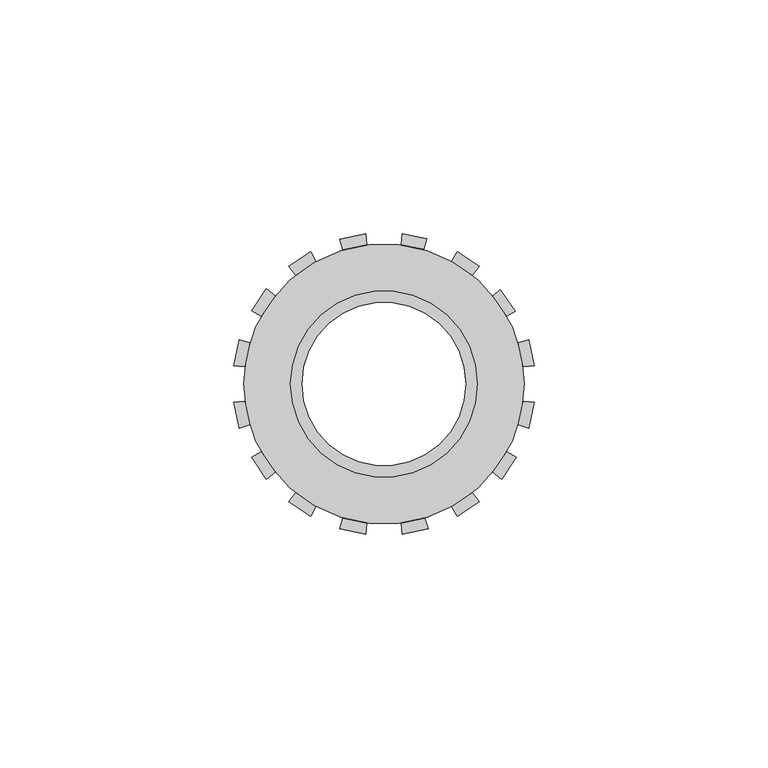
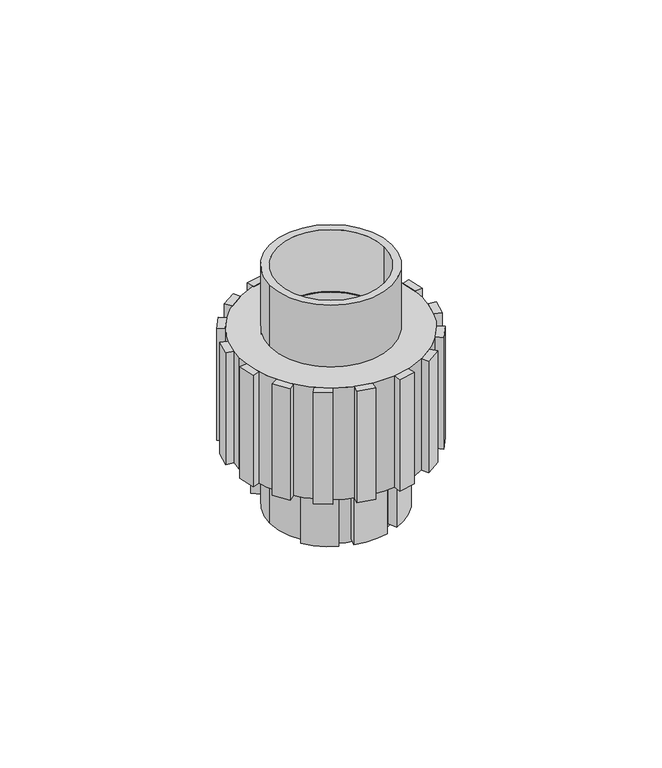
"""IFC4 building model written with IfcOpenShell, lengths in millimetres: valve geometry, Tuerca Union_Lubrizol_CPVC_FlowGuard_MX 32mm : Tuerca Union_Lubrizol_CPVC_FlowGuard_MX 32mm."""

from ifc_helpers import new_model, si_unit, point, frame, frame_2d, origin, origin_with_axes, origin_2d, place, context, project, spatial, polyline, circle_curve, trimmed, segment, composite_curve, outline, extrude, source, transform, mapped, element, save


def valve_72915398(model_context):
    return source(origin(), model_context, "Body", "SweptSolid", [
        extrude(outline(composite_curve([segment(polyline([(-4.6555045, 19.4506113), (-5.4460392, 22.4009269)]), True, "CONTINUOUS"), segment(trimmed(circle_curve(origin_2d(), 23.0534351), [point((-5.4460392, 22.4009269))], [point((5.4460392, 22.4009269))], False, "CARTESIAN"), True, "CONTINUOUS"), segment(polyline([(5.4460392, 22.4009269), (4.6555045, 19.4506113)]), True, "CONTINUOUS"), segment(trimmed(circle_curve(origin_2d(), 20.0), [point((4.6555045, 19.4506113))], [point((-4.6555045, 19.4506113))], True, "CARTESIAN"), True, "CONTINUOUS")], self_intersect=False)), frame((0.0, 0.0, 1.0184482), z_axis=(0.0, 0.0, 1.0), x_axis=(1.0, 0.0, 0.0)), (0.0, 0.0, 1.0), 21.1758273),
        extrude(outline(composite_curve([segment(trimmed(circle_curve(origin_2d(), 20.0), [point((-8.3064044, 18.1935056))], [point((-15.6435796, 12.4610761))], True, "CARTESIAN"), True, "CONTINUOUS"), segment(polyline([(-15.6435796, 12.4610761), (-18.0829252, 14.2992548)]), True, "CONTINUOUS"), segment(trimmed(circle_curve(origin_2d(), 23.0534351), [point((-18.0829252, 14.2992548))], [point((-9.4998503, 21.0050878))], False, "CARTESIAN"), True, "CONTINUOUS"), segment(polyline([(-9.4998503, 21.0050878), (-8.3064044, 18.1935056)]), True, "CONTINUOUS")], self_intersect=False)), frame((0.0, 0.0, 1.0184482), z_axis=(0.0, 0.0, 1.0), x_axis=(1.0, 0.0, 0.0)), (0.0, 0.0, 1.0), 21.1758273),
        extrude(outline(composite_curve([segment(polyline([(8.3064044, 18.1935056), (9.4998503, 21.0050878)]), True, "CONTINUOUS"), segment(trimmed(circle_curve(origin_2d(), 23.0534351), [point((9.4998503, 21.0050878))], [point((18.0829252, 14.2992548))], False, "CARTESIAN"), True, "CONTINUOUS"), segment(polyline([(18.0829252, 14.2992548), (15.6435796, 12.4610761)]), True, "CONTINUOUS"), segment(trimmed(circle_curve(origin_2d(), 20.0), [point((15.6435796, 12.4610761))], [point((8.3064044, 18.1935056))], True, "CARTESIAN"), True, "CONTINUOUS")], self_intersect=False)), frame((0.0, 0.0, 1.0184482), z_axis=(0.0, 0.0, 1.0), x_axis=(1.0, 0.0, 0.0)), (0.0, 0.0, 1.0), 21.1758273),
        extrude(outline(composite_curve([segment(trimmed(circle_curve(origin_2d(), 20.0), [point((-4.6555045, -19.4506113))], [point((4.6555045, -19.4506113))], True, "CARTESIAN"), True, "CONTINUOUS"), segment(polyline([(4.6555045, -19.4506113), (5.4460392, -22.4009269)]), True, "CONTINUOUS"), segment(trimmed(circle_curve(origin_2d(), 23.0534351), [point((5.4460392, -22.4009269))], [point((-5.4460392, -22.4009269))], False, "CARTESIAN"), True, "CONTINUOUS"), segment(polyline([(-5.4460392, -22.4009269), (-4.6555045, -19.4506113)]), True, "CONTINUOUS")], self_intersect=False)), frame((0.0, 0.0, 1.0184482), z_axis=(0.0, 0.0, 1.0), x_axis=(1.0, 0.0, 0.0)), (0.0, 0.0, 1.0), 21.1758273),
        extrude(outline(composite_curve([segment(polyline([(-8.3064044, -18.1935056), (-9.4998503, -21.0050878)]), True, "CONTINUOUS"), segment(trimmed(circle_curve(origin_2d(), 23.0534351), [point((-9.4998503, -21.0050878))], [point((-18.0829252, -14.2992548))], False, "CARTESIAN"), True, "CONTINUOUS"), segment(polyline([(-18.0829252, -14.2992548), (-15.6435796, -12.4610761)]), True, "CONTINUOUS"), segment(trimmed(circle_curve(origin_2d(), 20.0), [point((-15.6435796, -12.4610761))], [point((-8.3064044, -18.1935056))], True, "CARTESIAN"), True, "CONTINUOUS")], self_intersect=False)), frame((0.0, 0.0, 1.0184482), z_axis=(0.0, 0.0, 1.0), x_axis=(1.0, 0.0, 0.0)), (0.0, 0.0, 1.0), 21.1758273),
        extrude(outline(composite_curve([segment(trimmed(circle_curve(origin_2d(), 20.0), [point((8.3064044, -18.1935056))], [point((15.6435796, -12.4610761))], True, "CARTESIAN"), True, "CONTINUOUS"), segment(polyline([(15.6435796, -12.4610761), (18.0829252, -14.2992548)]), True, "CONTINUOUS"), segment(trimmed(circle_curve(origin_2d(), 23.0534351), [point((18.0829252, -14.2992548))], [point((9.4998503, -21.0050878))], False, "CARTESIAN"), True, "CONTINUOUS"), segment(polyline([(9.4998503, -21.0050878), (8.3064044, -18.1935056)]), True, "CONTINUOUS")], self_intersect=False)), frame((0.0, 0.0, 1.0184482), z_axis=(0.0, 0.0, 1.0), x_axis=(1.0, 0.0, 0.0)), (0.0, 0.0, 1.0), 21.1758273),
        extrude(outline(composite_curve([segment(polyline([(-18.8796117, 23.3143788), (-20.3899807, 25.1795292)]), True, "CONTINUOUS"), segment(trimmed(circle_curve(origin_2d(), 32.4), [point((-20.3899807, 25.1795292))], [point((-15.7078317, 28.3376785))], False, "CARTESIAN"), True, "CONTINUOUS"), segment(polyline([(-15.7078317, 28.3376785), (-14.5442886, 26.2385912)]), True, "CONTINUOUS"), segment(trimmed(circle_curve(origin_2d(), 30.0), [point((-14.5442886, 26.2385912))], [point((-18.8796117, 23.3143788))], True, "CARTESIAN"), True, "CONTINUOUS")], self_intersect=False)), frame((0.0, 0.0, 22.1942755), z_axis=(0.0, 0.0, 1.0), x_axis=(1.0, 0.0, 0.0)), (0.0, 0.0, 1.0), 38.6568188),
        extrude(outline(composite_curve([segment(trimmed(circle_curve(origin_2d(), 30.0), [point((-3.6560803, 29.7763845))], [point((-8.7711511, 28.6891427))], True, "CARTESIAN"), True, "CONTINUOUS"), segment(polyline([(-8.7711511, 28.6891427), (-9.4728432, 30.9842741)]), True, "CONTINUOUS"), segment(trimmed(circle_curve(origin_2d(), 32.4), [point((-9.4728432, 30.9842741))], [point((-3.9485667, 32.1584953))], False, "CARTESIAN"), True, "CONTINUOUS"), segment(polyline([(-3.9485667, 32.1584953), (-3.6560803, 29.7763845)]), True, "CONTINUOUS")], self_intersect=False)), frame((0.0, 0.0, 22.1942755), z_axis=(0.0, 0.0, 1.0), x_axis=(1.0, 0.0, 0.0)), (0.0, 0.0, 1.0), 38.6568188),
        extrude(outline(composite_curve([segment(trimmed(circle_curve(origin_2d(), 30.0), [point((-23.3143788, 18.8796117))], [point((-26.2385912, 14.5442886))], True, "CARTESIAN"), True, "CONTINUOUS"), segment(polyline([(-26.2385912, 14.5442886), (-28.3376785, 15.7078317)]), True, "CONTINUOUS"), segment(trimmed(circle_curve(origin_2d(), 32.4), [point((-28.3376785, 15.7078317))], [point((-25.1795292, 20.3899807))], False, "CARTESIAN"), True, "CONTINUOUS"), segment(polyline([(-25.1795292, 20.3899807), (-23.3143788, 18.8796117)]), True, "CONTINUOUS")], self_intersect=False)), frame((0.0, 0.0, 22.1942755), z_axis=(0.0, 0.0, 1.0), x_axis=(1.0, 0.0, 0.0)), (0.0, 0.0, 1.0), 38.6568188),
        extrude(outline(composite_curve([segment(polyline([(-29.7763845, 3.6560803), (-32.1584953, 3.9485667)]), True, "CONTINUOUS"), segment(trimmed(circle_curve(origin_2d(), 32.4), [point((-32.1584953, 3.9485667))], [point((-30.9842741, 9.4728432))], False, "CARTESIAN"), True, "CONTINUOUS"), segment(polyline([(-30.9842741, 9.4728432), (-28.6891427, 8.7711511)]), True, "CONTINUOUS"), segment(trimmed(circle_curve(origin_2d(), 30.0), [point((-28.6891427, 8.7711511))], [point((-29.7763845, 3.6560803))], True, "CARTESIAN"), True, "CONTINUOUS")], self_intersect=False)), frame((0.0, 0.0, 22.1942755), z_axis=(0.0, 0.0, 1.0), x_axis=(1.0, 0.0, 0.0)), (0.0, 0.0, 1.0), 38.6568188),
        extrude(outline(composite_curve([segment(trimmed(circle_curve(origin_2d(), 30.0), [point((18.8796117, 23.3143788))], [point((14.5442886, 26.2385912))], True, "CARTESIAN"), True, "CONTINUOUS"), segment(polyline([(14.5442886, 26.2385912), (15.7078317, 28.3376785)]), True, "CONTINUOUS"), segment(trimmed(circle_curve(origin_2d(), 32.4), [point((15.7078317, 28.3376785))], [point((20.3899807, 25.1795292))], False, "CARTESIAN"), True, "CONTINUOUS"), segment(polyline([(20.3899807, 25.1795292), (18.8796117, 23.3143788)]), True, "CONTINUOUS")], self_intersect=False)), frame((0.0, 0.0, 22.1942755), z_axis=(0.0, 0.0, 1.0), x_axis=(1.0, 0.0, 0.0)), (0.0, 0.0, 1.0), 38.6568188),
        extrude(outline(composite_curve([segment(polyline([(3.6560803, 29.7763845), (3.9485667, 32.1584953)]), True, "CONTINUOUS"), segment(trimmed(circle_curve(origin_2d(), 32.4), [point((3.9485667, 32.1584953))], [point((9.1761984, 31.0734192))], False, "CARTESIAN"), True, "CONTINUOUS"), segment(polyline([(9.1761984, 31.0734192), (8.4744717, 28.7781745)]), True, "CONTINUOUS"), segment(trimmed(circle_curve(origin_2d(), 30.0), [point((8.4744717, 28.7781745))], [point((3.6560803, 29.7763845))], True, "CARTESIAN"), True, "CONTINUOUS")], self_intersect=False)), frame((0.0, 0.0, 22.1942755), z_axis=(0.0, 0.0, 1.0), x_axis=(1.0, 0.0, 0.0)), (0.0, 0.0, 1.0), 38.6568188),
        extrude(outline(composite_curve([segment(polyline([(23.3143788, 18.8796117), (24.8564905, 20.1283892)]), True, "CONTINUOUS"), segment(trimmed(circle_curve(frame_2d((0.1318337, -0.8108406)), 32.4), [point((24.8564905, 20.1283892))], [point((28.086642, 15.5686799))], False, "CARTESIAN"), True, "CONTINUOUS"), segment(polyline([(28.086642, 15.5686799), (26.2385912, 14.5442886)]), True, "CONTINUOUS"), segment(trimmed(circle_curve(origin_2d(), 30.0), [point((26.2385912, 14.5442886))], [point((23.3143788, 18.8796117))], True, "CARTESIAN"), True, "CONTINUOUS")], self_intersect=False)), frame((0.0, 0.0, 22.1942755), z_axis=(0.0, 0.0, 1.0), x_axis=(1.0, 0.0, 0.0)), (0.0, 0.0, 1.0), 38.6568188),
        extrude(outline(composite_curve([segment(trimmed(circle_curve(origin_2d(), 30.0), [point((29.7763845, 3.6560803))], [point((28.6891427, 8.7711511))], True, "CARTESIAN"), True, "CONTINUOUS"), segment(polyline([(28.6891427, 8.7711511), (30.9842741, 9.4728432)]), True, "CONTINUOUS"), segment(trimmed(circle_curve(origin_2d(), 32.4), [point((30.9842741, 9.4728432))], [point((32.1584953, 3.9485667))], False, "CARTESIAN"), True, "CONTINUOUS"), segment(polyline([(32.1584953, 3.9485667), (29.7763845, 3.6560803)]), True, "CONTINUOUS")], self_intersect=False)), frame((0.0, 0.0, 22.1942755), z_axis=(0.0, 0.0, 1.0), x_axis=(1.0, 0.0, 0.0)), (0.0, 0.0, 1.0), 38.6568188),
        extrude(outline(composite_curve([segment(trimmed(circle_curve(origin_2d(), 30.0), [point((-18.8796117, -23.3143788))], [point((-14.5442886, -26.2385912))], True, "CARTESIAN"), True, "CONTINUOUS"), segment(polyline([(-14.5442886, -26.2385912), (-15.7078317, -28.3376785)]), True, "CONTINUOUS"), segment(trimmed(circle_curve(origin_2d(), 32.4), [point((-15.7078317, -28.3376785))], [point((-20.3899807, -25.1795292))], False, "CARTESIAN"), True, "CONTINUOUS"), segment(polyline([(-20.3899807, -25.1795292), (-18.8796117, -23.3143788)]), True, "CONTINUOUS")], self_intersect=False)), frame((0.0, 0.0, 22.1942755), z_axis=(0.0, 0.0, 1.0), x_axis=(1.0, 0.0, 0.0)), (0.0, 0.0, 1.0), 38.6568188),
        extrude(outline(composite_curve([segment(polyline([(-3.6560803, -29.7763845), (-3.9485667, -32.1584953)]), True, "CONTINUOUS"), segment(trimmed(circle_curve(origin_2d(), 32.4), [point((-3.9485667, -32.1584953))], [point((-9.4728432, -30.9842741))], False, "CARTESIAN"), True, "CONTINUOUS"), segment(polyline([(-9.4728432, -30.9842741), (-8.7711511, -28.6891427)]), True, "CONTINUOUS"), segment(trimmed(circle_curve(origin_2d(), 30.0), [point((-8.7711511, -28.6891427))], [point((-3.6560803, -29.7763845))], True, "CARTESIAN"), True, "CONTINUOUS")], self_intersect=False)), frame((0.0, 0.0, 22.1942755), z_axis=(0.0, 0.0, 1.0), x_axis=(1.0, 0.0, 0.0)), (0.0, 0.0, 1.0), 38.6568188),
        extrude(outline(composite_curve([segment(polyline([(-23.3143788, -18.8796117), (-25.1795292, -20.3899807)]), True, "CONTINUOUS"), segment(trimmed(circle_curve(origin_2d(), 32.4), [point((-25.1795292, -20.3899807))], [point((-28.3376785, -15.7078317))], False, "CARTESIAN"), True, "CONTINUOUS"), segment(polyline([(-28.3376785, -15.7078317), (-26.2385912, -14.5442886)]), True, "CONTINUOUS"), segment(trimmed(circle_curve(origin_2d(), 30.0), [point((-26.2385912, -14.5442886))], [point((-23.3143788, -18.8796117))], True, "CARTESIAN"), True, "CONTINUOUS")], self_intersect=False)), frame((0.0, 0.0, 22.1942755), z_axis=(0.0, 0.0, 1.0), x_axis=(1.0, 0.0, 0.0)), (0.0, 0.0, 1.0), 38.6568188),
        extrude(outline(composite_curve([segment(trimmed(circle_curve(origin_2d(), 30.0), [point((-29.7763845, -3.6560803))], [point((-28.6891427, -8.7711511))], True, "CARTESIAN"), True, "CONTINUOUS"), segment(polyline([(-28.6891427, -8.7711511), (-30.9842741, -9.4728432)]), True, "CONTINUOUS"), segment(trimmed(circle_curve(origin_2d(), 32.4), [point((-30.9842741, -9.4728432))], [point((-32.1584953, -3.9485667))], False, "CARTESIAN"), True, "CONTINUOUS"), segment(polyline([(-32.1584953, -3.9485667), (-29.7763845, -3.6560803)]), True, "CONTINUOUS")], self_intersect=False)), frame((0.0, 0.0, 22.1942755), z_axis=(0.0, 0.0, 1.0), x_axis=(1.0, 0.0, 0.0)), (0.0, 0.0, 1.0), 38.6568188),
        extrude(outline(composite_curve([segment(polyline([(18.8796117, -23.3143788), (20.3899807, -25.1795292)]), True, "CONTINUOUS"), segment(trimmed(circle_curve(origin_2d(), 32.4), [point((20.3899807, -25.1795292))], [point((15.7078317, -28.3376785))], False, "CARTESIAN"), True, "CONTINUOUS"), segment(polyline([(15.7078317, -28.3376785), (14.5442886, -26.2385912)]), True, "CONTINUOUS"), segment(trimmed(circle_curve(origin_2d(), 30.0), [point((14.5442886, -26.2385912))], [point((18.8796117, -23.3143788))], True, "CARTESIAN"), True, "CONTINUOUS")], self_intersect=False)), frame((0.0, 0.0, 22.1942755), z_axis=(0.0, 0.0, 1.0), x_axis=(1.0, 0.0, 0.0)), (0.0, 0.0, 1.0), 38.6568188),
        extrude(outline(composite_curve([segment(trimmed(circle_curve(origin_2d(), 30.0), [point((3.6560803, -29.7763845))], [point((8.7711511, -28.6891427))], True, "CARTESIAN"), True, "CONTINUOUS"), segment(polyline([(8.7711511, -28.6891427), (9.4728432, -30.9842741)]), True, "CONTINUOUS"), segment(trimmed(circle_curve(origin_2d(), 32.4), [point((9.4728432, -30.9842741))], [point((3.9485667, -32.1584953))], False, "CARTESIAN"), True, "CONTINUOUS"), segment(polyline([(3.9485667, -32.1584953), (3.6560803, -29.7763845)]), True, "CONTINUOUS")], self_intersect=False)), frame((0.0, 0.0, 22.1942755), z_axis=(0.0, 0.0, 1.0), x_axis=(1.0, 0.0, 0.0)), (0.0, 0.0, 1.0), 38.6568188),
        extrude(outline(composite_curve([segment(trimmed(circle_curve(origin_2d(), 30.0), [point((23.3143788, -18.8796117))], [point((26.2385912, -14.5442886))], True, "CARTESIAN"), True, "CONTINUOUS"), segment(polyline([(26.2385912, -14.5442886), (28.3376785, -15.7078317)]), True, "CONTINUOUS"), segment(trimmed(circle_curve(origin_2d(), 32.4), [point((28.3376785, -15.7078317))], [point((25.1795292, -20.3899807))], False, "CARTESIAN"), True, "CONTINUOUS"), segment(polyline([(25.1795292, -20.3899807), (23.3143788, -18.8796117)]), True, "CONTINUOUS")], self_intersect=False)), frame((0.0, 0.0, 22.1942755), z_axis=(0.0, 0.0, 1.0), x_axis=(1.0, 0.0, 0.0)), (0.0, 0.0, 1.0), 38.6568188),
        extrude(outline(composite_curve([segment(polyline([(29.7763845, -3.6560803), (32.1584953, -3.9485667)]), True, "CONTINUOUS"), segment(trimmed(circle_curve(origin_2d(), 32.4), [point((32.1584953, -3.9485667))], [point((30.9842741, -9.4728432))], False, "CARTESIAN"), True, "CONTINUOUS"), segment(polyline([(30.9842741, -9.4728432), (28.6891427, -8.7711511)]), True, "CONTINUOUS"), segment(trimmed(circle_curve(origin_2d(), 30.0), [point((28.6891427, -8.7711511))], [point((29.7763845, -3.6560803))], True, "CARTESIAN"), True, "CONTINUOUS")], self_intersect=False)), frame((0.0, 0.0, 22.1942755), z_axis=(0.0, 0.0, 1.0), x_axis=(1.0, 0.0, 0.0)), (0.0, 0.0, 1.0), 38.6568188),
        extrude(outline(composite_curve([segment(trimmed(circle_curve(origin_2d(), 20.0), [point((-20.0, 0.0))], [point((20.0, 0.0))], False, "CARTESIAN"), True, "CONTINUOUS"), segment(trimmed(circle_curve(origin_2d(), 20.0), [point((20.0, 0.0))], [point((-20.0, 0.0))], False, "CARTESIAN"), True, "CONTINUOUS")], self_intersect=False), holes=[composite_curve([segment(trimmed(circle_curve(origin_2d(), 17.5), [point((-17.5, 0.0))], [point((17.5, 0.0))], True, "CARTESIAN"), True, "CONTINUOUS"), segment(trimmed(circle_curve(origin_2d(), 17.5), [point((17.5, 0.0))], [point((-17.5, 0.0))], True, "CARTESIAN"), True, "CONTINUOUS")], self_intersect=False)]), origin_with_axes(), (0.0, 0.0, 1.0), 22.1942755),
        extrude(outline(composite_curve([segment(trimmed(circle_curve(origin_2d(), 30.0), [point((-30.0, 0.0))], [point((30.0, 0.0))], False, "CARTESIAN"), True, "CONTINUOUS"), segment(trimmed(circle_curve(origin_2d(), 30.0), [point((30.0, 0.0))], [point((-30.0, 0.0))], False, "CARTESIAN"), True, "CONTINUOUS")], self_intersect=False), holes=[composite_curve([segment(trimmed(circle_curve(origin_2d(), 17.5), [point((-17.5, 0.0))], [point((17.5, 0.0))], True, "CARTESIAN"), True, "CONTINUOUS"), segment(trimmed(circle_curve(origin_2d(), 17.5), [point((17.5, 0.0))], [point((-17.5, 0.0))], True, "CARTESIAN"), True, "CONTINUOUS")], self_intersect=False)]), frame((0.0, 0.0, 22.1942755), z_axis=(0.0, 0.0, 1.0), x_axis=(1.0, 0.0, 0.0)), (0.0, 0.0, 1.0), 38.6568188),
        extrude(outline(composite_curve([segment(trimmed(circle_curve(origin_2d(), 20.0), [point((-20.0, 0.0))], [point((20.0, 0.0))], False, "CARTESIAN"), True, "CONTINUOUS"), segment(trimmed(circle_curve(origin_2d(), 20.0), [point((20.0, 0.0))], [point((-20.0, 0.0))], False, "CARTESIAN"), True, "CONTINUOUS")], self_intersect=False), holes=[composite_curve([segment(trimmed(circle_curve(origin_2d(), 17.5), [point((-17.5, 0.0))], [point((17.5, 0.0))], True, "CARTESIAN"), True, "CONTINUOUS"), segment(trimmed(circle_curve(origin_2d(), 17.5), [point((17.5, 0.0))], [point((-17.5, 0.0))], True, "CARTESIAN"), True, "CONTINUOUS")], self_intersect=False)]), frame((0.0, 0.0, 43.0605328), z_axis=(0.0, 0.0, 1.0), x_axis=(1.0, 0.0, 0.0)), (0.0, 0.0, 1.0), 39.4312468),
    ])


if __name__ == "__main__":
    model = new_model("IFC4")
    model_context = context("Model", 3, world=origin())
    ifc_project = project(units=[si_unit("LENGTHUNIT", "METRE", prefix="MILLI")], contexts=[model_context])
    site = spatial("IfcSite", under=ifc_project)
    building = spatial("IfcBuilding", under=site)
    placement = place(None, origin())
    valve_shape = valve_72915398(model_context)
    element("IfcValve", 1, ObjectType="Tuerca Union_Lubrizol_CPVC_FlowGuard_MX 32mm : Tuerca Union_Lubrizol_CPVC_FlowGuard_MX 32mm", at=placement, inside=building, context=model_context, shape_type="MappedRepresentation", body=[
        mapped(valve_shape, transform((0.0, 0.0, 0.0), x_axis=(1.0, 0.0, 0.0), y_axis=(0.0, 1.0, 0.0), z_axis=(0.0, 0.0, 1.0))),
    ])
    save(model, "model.ifc")
